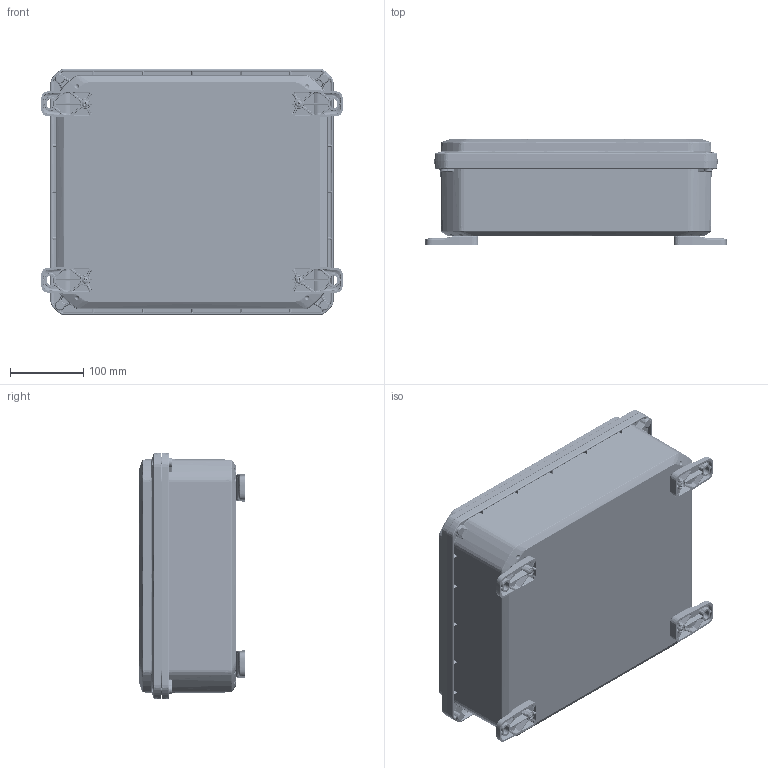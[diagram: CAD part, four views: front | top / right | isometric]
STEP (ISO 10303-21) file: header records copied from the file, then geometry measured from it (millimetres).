
FILE_DESCRIPTION (( 'STEP AP214' ), '1' );
FILE_NAME ('ZQ-141204-27.STEP', '2024-10-25T19:26:15', ( '' ), ( '' ), 'SwSTEP 2.0', 'SolidWorks 2024', '' );
FILE_SCHEMA (( 'AUTOMOTIVE_DESIGN' ));
Products named in the file (11): SCREWS-046_SCREWS-046; ZH-1412G; INSERTS-4; Z_-14124BI_ZQ-14124BI-01; Z_-14121C_ZQ-14121C-02; Z_-14124B_ZQ-14124B-01; ZH-01F_ZH-01F-01; ZQ-141204-27; SCREWS-047_default; Z_-14121CG_ZQ-14121CG-02; LABEL-104
Assembly tree (30 placements, depth 3):
  ZQ-141204-27
    Z_-14124BI_ZQ-14124BI-01
      Z_-14124B_ZQ-14124B-01
      INSERTS-4  x12
      LABEL-104
    Z_-14121CG_ZQ-14121CG-02
      Z_-14121C_ZQ-14121C-02
      ZH-1412G
    ZH-01F_ZH-01F-01  x4
    SCREWS-046_SCREWS-046  x4
    SCREWS-047_default  x4
Bounding box: 412.75 x 145.34 x 336.3 mm (x, y, z)
Volume: 2115815.4 mm3; surface area: 1010303.1 mm2
Topology: 28 solids, 28 shells, 7674 faces, 18770 edges, 11138 vertices
Faces by surface type: bspline 2480, cylinder 1504, plane 1386, cone 1368, torus 904, sphere 32
Entity records: 245859 total; most frequent: CARTESIAN_POINT 148959, ORIENTED_EDGE 22266, DIRECTION 17876, EDGE_CURVE 11133, AXIS2_PLACEMENT_3D 7716, VERTEX_POINT 6531, EDGE_LOOP 4948, FACE_OUTER_BOUND 4775
